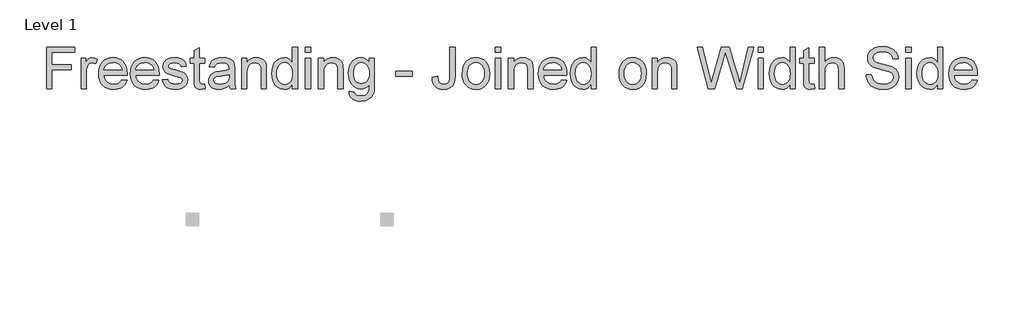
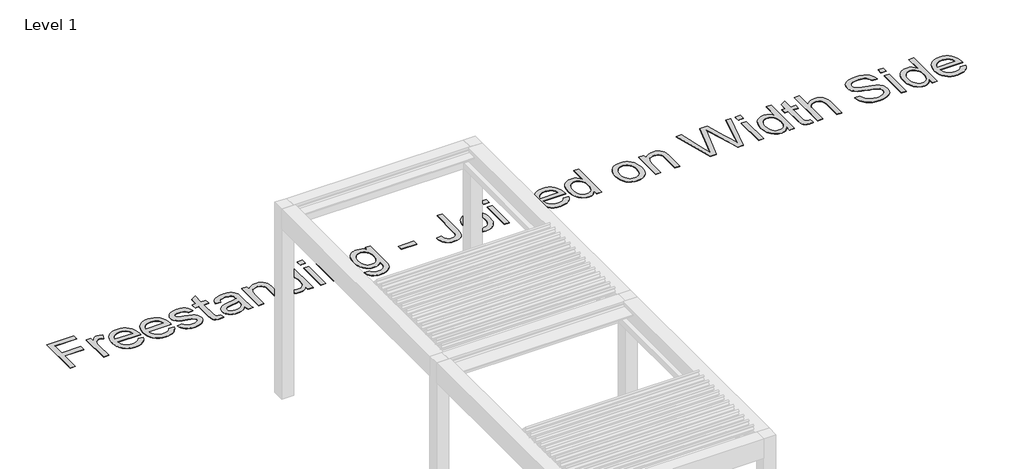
# One storey, part 15 of 69: 1 proxy.
"""IFC4 building model written with IfcOpenShell, lengths in millimetres."""

from ifc_helpers import new_model, si_unit, origin, origin_with_axes, place, context, project, spatial, polyline, outline, extrude, element, save

model = new_model("IFC4")

# Units and contexts
model_context = context("Model", 3, world=origin())
ifc_project = project(units=[si_unit("LENGTHUNIT", "METRE", prefix="MILLI")], contexts=[model_context])

# Site, building, storey
site = spatial("IfcSite", under=ifc_project)
building = spatial("IfcBuilding", under=site)
storey = spatial("IfcBuildingStorey", under=building, Name="Level 1", Elevation=0.0)

# Proxy
placement = place(None, origin())
element("IfcBuildingElementProxy", 1, Name="500mm Arial", ObjectType="500mm Arial", at=placement, inside=storey, context=model_context, shape_type="SweptSolid", body=[
    extrude(outline(polyline([(90253.7790922, -47655.9215237), (90253.7790922, -47153.639973), (90591.2495091, -47153.639973), (90591.2495091, -47216.4251668), (90316.564286, -47216.4251668), (90316.564286, -47365.5400022), (90552.0087629, -47365.5400022), (90552.0087629, -47428.325196), (90316.564286, -47428.325196), (90316.564286, -47655.9215237), (90253.7790922, -47655.9215237)])), origin_with_axes(), (0.0, 0.0, 1.0), 5.0),
    extrude(outline(polyline([(90669.7310014, -47655.9215237), (90669.7310014, -47287.0585099), (90724.668046, -47287.0585099), (90724.668046, -47341.6276725), (90744.9628694, -47309.9898209), (90763.6635375, -47291.3504665), (90782.4255192, -47282.2453871), (90802.9042836, -47279.2103607), (90834.1742532, -47284.0541403), (90865.9347321, -47298.5854791), (90844.9654584, -47354.8714243), (90822.8925387, -47345.214522), (90800.819619, -47341.9955545), (90782.0729657, -47345.0918946), (90765.3190065, -47354.380915), (90751.7840147, -47369.1575085), (90742.6942638, -47388.7165679), (90735.0607124, -47423.7879848), (90732.5161952, -47462.0477123), (90732.5161952, -47655.9215237), (90669.7310014, -47655.9215237)])), origin_with_axes(), (0.0, 0.0, 1.0), 5.0),
    extrude(outline(polyline([(91163.4286389, -47546.0474345), (91224.9875594, -47553.8955837), (91215.549087, -47578.5513416), (91202.8073408, -47600.279372), (91186.7623209, -47619.0796748), (91167.4140272, -47634.95225), (91144.9617292, -47647.5598725), (91119.6046962, -47656.5653172), (91091.3429284, -47661.968584), (91060.1764256, -47663.769673), (91021.2192551, -47660.6618365), (90986.5080561, -47651.3383272), (90956.0428283, -47635.799145), (90929.823572, -47614.0442899), (90908.7393351, -47586.6792344), (90893.6791659, -47554.309451), (90884.6430644, -47516.9349395), (90881.6310306, -47474.5557001), (90884.6737213, -47430.7394216), (90893.8017933, -47392.1194764), (90909.0152466, -47358.6958643), (90930.3140813, -47330.4685853), (90956.4643598, -47308.043112), (90986.2321446, -47292.0249168), (91019.6174356, -47282.4139997), (91056.620233, -47279.2103607), (91092.4312459, -47282.4063355), (91124.8163578, -47291.99426), (91153.7755686, -47307.9741342), (91179.3088784, -47330.345958), (91200.1516926, -47358.5119233), (91215.0394171, -47391.8742217), (91223.9720518, -47430.4328533), (91226.9495967, -47474.1878181), (91226.5817147, -47491.1103899), (90944.4162244, -47491.1103899), (90948.0528912, -47516.1646866), (90955.2840717, -47538.1073148), (90966.1097658, -47556.9382744), (90980.5299736, -47572.6575655), (90997.7476174, -47585.0505902), (91016.9656196, -47593.9027507), (91038.1839801, -47599.214047), (91061.4026989, -47600.9844791), (91094.8186468, -47597.704198), (91122.9616194, -47587.8633546), (91145.8316168, -47570.8488123), (91163.4286389, -47546.0474345)]), holes=[polyline([(90944.4162244, -47428.325196), (91164.1644029, -47428.325196), (91155.6724602, -47395.1545028), (91139.0257999, -47371.4261141), (91121.9039587, -47358.5502443), (91102.4215414, -47349.3531944), (91080.5785479, -47343.8349645), (91056.3749783, -47341.9955545), (91014.0532204, -47347.866338), (90995.6399602, -47355.2048174), (90979.0584457, -47365.4786885), (90965.1440756, -47378.2127705), (90954.7322487, -47392.9318824), (90947.822965, -47409.6360243), (90944.4162244, -47428.325196)])]), origin_with_axes(), (0.0, 0.0, 1.0), 5.0),
    extrude(outline(polyline([(91547.9879512, -47546.0474345), (91609.5468717, -47553.8955837), (91600.1083993, -47578.5513416), (91587.3666531, -47600.279372), (91571.3216332, -47619.0796748), (91551.9733395, -47634.95225), (91529.5210415, -47647.5598725), (91504.1640085, -47656.5653172), (91475.9022407, -47661.968584), (91444.7357379, -47663.769673), (91405.7785674, -47660.6618365), (91371.0673683, -47651.3383272), (91340.6021406, -47635.799145), (91314.3828843, -47614.0442899), (91293.2986474, -47586.6792344), (91278.2384782, -47554.309451), (91269.2023767, -47516.9349395), (91266.1903429, -47474.5557001), (91269.2330336, -47430.7394216), (91278.3611056, -47392.1194764), (91293.5745589, -47358.6958643), (91314.8733936, -47330.4685853), (91341.0236721, -47308.043112), (91370.7914568, -47292.0249168), (91404.1767479, -47282.4139997), (91441.1795453, -47279.2103607), (91476.9905582, -47282.4063355), (91509.3756701, -47291.99426), (91538.3348809, -47307.9741342), (91563.8681907, -47330.345958), (91584.7110049, -47358.5119233), (91599.5987294, -47391.8742217), (91608.5313641, -47430.4328533), (91611.508909, -47474.1878181), (91611.141027, -47491.1103899), (91328.9755367, -47491.1103899), (91332.6122035, -47516.1646866), (91339.843384, -47538.1073148), (91350.6690781, -47556.9382744), (91365.0892859, -47572.6575655), (91382.3069297, -47585.0505902), (91401.5249319, -47593.9027507), (91422.7432924, -47599.214047), (91445.9620112, -47600.9844791), (91479.3779591, -47597.704198), (91507.5209317, -47587.8633546), (91530.3909291, -47570.8488123), (91547.9879512, -47546.0474345)]), holes=[polyline([(91328.9755367, -47428.325196), (91548.7237152, -47428.325196), (91540.2317725, -47395.1545028), (91523.5851122, -47371.4261141), (91506.463271, -47358.5502443), (91486.9808537, -47349.3531944), (91465.1378602, -47343.8349645), (91440.9342906, -47341.9955545), (91398.6125327, -47347.866338), (91380.1992725, -47355.2048174), (91363.6177579, -47365.4786885), (91349.7033879, -47378.2127705), (91339.291561, -47392.9318824), (91332.3822773, -47409.6360243), (91328.9755367, -47428.325196)])]), origin_with_axes(), (0.0, 0.0, 1.0), 5.0),
    extrude(outline(polyline([(91650.7496552, -47546.0474345), (91713.534849, -47538.1992853), (91723.4370061, -47565.0546709), (91742.5975266, -47584.7976713), (91771.1390381, -47596.9377772), (91809.1841678, -47600.9844791), (91846.7694449, -47597.2750023), (91873.1956349, -47586.146572), (91888.8306197, -47570.0210779), (91894.0422813, -47551.3204098), (91888.7999629, -47535.317543), (91873.0730076, -47523.1161235), (91808.4484038, -47505.212533), (91751.150783, -47488.6425148), (91713.902731, -47474.4943864), (91689.9750729, -47459.0586711), (91672.6386339, -47438.6258919), (91662.1080118, -47414.4989644), (91658.5978044, -47387.9808039), (91661.418233, -47363.654607), (91669.8795189, -47341.1984769), (91683.2152413, -47321.5014617), (91700.6589792, -47305.4526097), (91717.9954182, -47295.3511832), (91740.5741757, -47286.8745689), (91766.6784689, -47281.1264127), (91794.5915153, -47279.2103607), (91835.4570736, -47282.2913724), (91870.988343, -47291.5344075), (91899.5605112, -47306.0350895), (91919.5487663, -47324.8890417), (91932.7925181, -47349.4911502), (91941.1311767, -47381.2363007), (91878.3459829, -47389.0844499), (91870.4211915, -47369.3261211), (91854.7402215, -47354.4422287), (91831.1497886, -47345.1072231), (91799.4966086, -47341.9955545), (91763.444173, -47344.9692673), (91739.409216, -47353.8904057), (91725.8895527, -47366.7662755), (91721.3829983, -47381.6041827), (91723.2530651, -47391.261085), (91728.8632655, -47399.8756551), (91738.4588542, -47407.5705202), (91752.2850858, -47413.7325436), (91806.3637391, -47427.0989227), (91898.5181789, -47456.6521097), (91922.8597043, -47470.7849097), (91941.3151177, -47490.1293712), (91952.9493858, -47514.7468081), (91956.8274752, -47544.6985339), (91952.2749355, -47575.6619351), (91938.6173164, -47604.7859264), (91916.3757841, -47629.7865737), (91886.0715048, -47648.3799428), (91849.4672462, -47659.9222404), (91808.3257764, -47663.769673), (91774.5342823, -47661.9149346), (91745.0194164, -47656.3507194), (91719.7811787, -47647.0770274), (91698.8195692, -47634.0938587), (91681.697728, -47617.4625268), (91667.9787953, -47597.2443455), (91657.662771, -47573.4393147), (91650.7496552, -47546.0474345)])), origin_with_axes(), (0.0, 0.0, 1.0), 5.0),
    extrude(outline(polyline([(92160.8793552, -47603.5596531), (92168.7275044, -47657.7609337), (92121.7612363, -47663.769673), (92091.6255696, -47661.1638422), (92069.154111, -47653.3463498), (92053.2738716, -47641.2982144), (92042.911862, -47626.0004548), (92037.2096911, -47599.727549), (92035.3089675, -47554.7539751), (92035.3089675, -47349.8437037), (91988.2200721, -47349.8437037), (91988.2200721, -47287.0585099), (92035.3089675, -47287.0585099), (92035.3089675, -47197.4179304), (92098.0941613, -47160.5071036), (92098.0941613, -47287.0585099), (92160.8793552, -47287.0585099), (92160.8793552, -47349.8437037), (92098.0941613, -47349.8437037), (92098.0941613, -47552.9145651), (92101.4050993, -47585.2881807), (92112.1349908, -47596.7538362), (92133.5334602, -47600.9844791), (92160.8793552, -47603.5596531)])), origin_with_axes(), (0.0, 0.0, 1.0), 5.0),
    extrude(outline(polyline([(92459.1090259, -47608.8326283), (92429.1113149, -47634.5537112), (92398.2245557, -47651.3843125), (92365.7436412, -47660.6733328), (92330.9634643, -47663.769673), (92303.0082647, -47661.9072704), (92278.4942947, -47656.3200626), (92257.4215542, -47647.0080496), (92239.7900431, -47633.9712314), (92225.8680089, -47618.0373424), (92215.9236987, -47600.0341173), (92209.9571126, -47579.9615559), (92207.9682505, -47557.8196583), (92210.9726202, -47531.7920072), (92219.985729, -47508.155589), (92233.8886028, -47487.9220793), (92251.562267, -47472.1031535), (92272.3322713, -47460.1469886), (92295.5241654, -47451.5017617), (92349.8480733, -47442.0594572), (92414.0434815, -47432.1266433), (92458.7411439, -47420.4770468), (92459.1090259, -47406.497531), (92454.7864125, -47378.4771857), (92441.8185721, -47360.1443996), (92428.7434329, -47352.2042799), (92412.8172082, -47346.5327658), (92372.4115024, -47341.9955545), (92335.0101662, -47345.0152526), (92308.8905445, -47354.0743467), (92291.0789246, -47370.8283059), (92278.6015936, -47396.9325991), (92215.8163998, -47389.0844499), (92226.7149039, -47354.748797), (92242.9783537, -47327.770784), (92266.1242626, -47307.1387355), (92297.6701437, -47291.8409758), (92336.2517679, -47282.3680145), (92380.5049063, -47279.2103607), (92422.9492915, -47282.0001325), (92456.5951656, -47290.3694479), (92481.9636949, -47302.9540778), (92499.5760454, -47318.3897932), (92511.2562987, -47337.4736717), (92518.8285365, -47361.0027909), (92521.8942198, -47415.9398355), (92521.8942198, -47494.0534459), (92525.0825304, -47603.1304574), (92529.8036827, -47630.093142), (92537.5905182, -47655.9215237), (92474.8053244, -47655.9215237), (92464.7498832, -47634.0938587), (92459.1090259, -47608.8326283)]), holes=[polyline([(92459.1090259, -47483.2622407), (92416.9252238, -47493.7162207), (92357.8188499, -47502.5147317), (92303.8015103, -47512.6928003), (92289.7453524, -47519.6519013), (92279.3373576, -47529.2474901), (92272.8994227, -47540.7438024), (92270.7534444, -47553.4050744), (92275.4286114, -47572.0750857), (92289.4541125, -47587.3728453), (92312.5233793, -47597.5815707), (92344.3298434, -47600.9844791), (92378.0523596, -47597.2290171), (92407.8508013, -47585.962631), (92432.0083856, -47569.3619559), (92448.80833, -47549.6036271), (92456.2579405, -47529.2474901), (92458.7411439, -47501.0432038), (92459.1090259, -47483.2622407)])]), origin_with_axes(), (0.0, 0.0, 1.0), 5.0),
    extrude(outline(polyline([(92608.2238613, -47655.9215237), (92608.2238613, -47287.0585099), (92671.0090551, -47287.0585099), (92671.0090551, -47338.5619892), (92692.8213918, -47312.5956517), (92719.0176555, -47294.0482678), (92749.5978464, -47282.9198375), (92784.5619643, -47279.2103607), (92815.5100372, -47282.1994019), (92843.8522792, -47291.1665255), (92867.4886974, -47304.9927572), (92884.3192987, -47322.5591224), (92895.7389689, -47343.8196361), (92903.1425941, -47368.7283128), (92906.453532, -47429.428842), (92906.453532, -47655.9215237), (92843.6683382, -47655.9215237), (92843.6683382, -47437.8901279), (92841.8595851, -47405.4245418), (92836.4333256, -47382.3399466), (92826.4238697, -47365.8005853), (92810.865527, -47352.9707007), (92790.9232571, -47344.7393411), (92767.7620199, -47341.9955545), (92748.6973019, -47343.5360604), (92730.9891488, -47348.1575779), (92714.6375605, -47355.8601072), (92699.6425371, -47366.6436482), (92687.1153887, -47381.7344742), (92678.1674256, -47402.3588586), (92672.7986478, -47428.5168013), (92671.0090551, -47460.2083023), (92671.0090551, -47655.9215237), (92608.2238613, -47655.9215237)])), origin_with_axes(), (0.0, 0.0, 1.0), 5.0),
    extrude(outline(polyline([(93220.3795013, -47655.9215237), (93220.3795013, -47596.6925225), (93201.5945269, -47626.0387758), (93178.8394926, -47647.0003853), (93152.1143985, -47659.5773511), (93121.4192446, -47663.769673), (93080.8295978, -47657.69962), (93043.6735162, -47639.4894613), (93012.2196057, -47610.4114552), (92988.7364716, -47571.7378605), (92974.1131623, -47525.0321755), (92969.2387259, -47471.8578988), (92973.7299519, -47419.342744), (92987.20363, -47371.9166235), (92997.3050564, -47350.7864014), (93009.6444317, -47332.2773385), (93024.2217558, -47316.3894348), (93041.0370286, -47303.1226904), (93079.0055162, -47285.1884431), (93121.1739899, -47279.2103607), (93151.8921365, -47283.4869889), (93179.0540905, -47296.3168734), (93202.077372, -47315.9832318), (93220.3795013, -47340.7692812), (93220.3795013, -47153.639973), (93283.1646951, -47153.639973), (93283.1646951, -47655.9215237), (93220.3795013, -47655.9215237)]), holes=[polyline([(93032.0239197, -47471.6126441), (93033.7943518, -47502.0587114), (93039.1056481, -47528.4044272), (93047.9578087, -47550.6497915), (93060.3508334, -47568.7948045), (93075.1504195, -47582.8777872), (93091.2222641, -47592.9370605), (93108.5663674, -47598.9726245), (93127.1827292, -47600.9844791), (93145.8872293, -47599.064595), (93163.1278658, -47593.3049425), (93178.9046384, -47583.7055217), (93193.2175473, -47570.2663325), (93205.1009022, -47552.8800761), (93213.5890128, -47531.4394536), (93218.6818791, -47505.9444649), (93220.3795013, -47476.3951101), (93218.6512223, -47443.9985019), (93213.4663854, -47416.215747), (93204.8249907, -47393.0468456), (93192.727038, -47374.4917974), (93178.0998965, -47360.2746911), (93161.8709356, -47350.1196152), (93144.0401552, -47344.0265697), (93124.6075552, -47341.9955545), (93105.6233114, -47343.9460955), (93088.2792082, -47349.7977185), (93072.5752455, -47359.5504235), (93058.5114234, -47373.2042104), (93046.9231405, -47391.0579835), (93038.6457956, -47413.4106468), (93033.6793887, -47440.2622004), (93032.0239197, -47471.6126441)])]), origin_with_axes(), (0.0, 0.0, 1.0), 5.0),
    extrude(outline(polyline([(93377.3424859, -47655.9215237), (93377.3424859, -47287.0585099), (93440.1276797, -47287.0585099), (93440.1276797, -47655.9215237), (93377.3424859, -47655.9215237)])), origin_with_axes(), (0.0, 0.0, 1.0), 5.0),
    extrude(outline(polyline([(93377.3424859, -47216.4251668), (93377.3424859, -47153.639973), (93440.1276797, -47153.639973), (93440.1276797, -47216.4251668), (93377.3424859, -47216.4251668)])), origin_with_axes(), (0.0, 0.0, 1.0), 5.0),
    extrude(outline(polyline([(93534.3054705, -47655.9215237), (93534.3054705, -47287.0585099), (93597.0906643, -47287.0585099), (93597.0906643, -47338.5619892), (93618.903001, -47312.5956517), (93645.0992647, -47294.0482678), (93675.6794555, -47282.9198375), (93710.6435735, -47279.2103607), (93741.5916463, -47282.1994019), (93769.9338884, -47291.1665255), (93793.5703066, -47304.9927572), (93810.4009079, -47322.5591224), (93821.8205781, -47343.8196361), (93829.2242033, -47368.7283128), (93832.5351412, -47429.428842), (93832.5351412, -47655.9215237), (93769.7499474, -47655.9215237), (93769.7499474, -47437.8901279), (93767.9411943, -47405.4245418), (93762.5149348, -47382.3399466), (93752.5054789, -47365.8005853), (93736.9471362, -47352.9707007), (93717.0048663, -47344.7393411), (93693.8436291, -47341.9955545), (93674.7789111, -47343.5360604), (93657.070758, -47348.1575779), (93640.7191697, -47355.8601072), (93625.7241463, -47366.6436482), (93613.1969979, -47381.7344742), (93604.2490348, -47402.3588586), (93598.8802569, -47428.5168013), (93597.0906643, -47460.2083023), (93597.0906643, -47655.9215237), (93534.3054705, -47655.9215237)])), origin_with_axes(), (0.0, 0.0, 1.0), 5.0),
    extrude(outline(polyline([(93903.1684843, -47687.3141207), (93965.9536782, -47695.1622699), (93972.8821224, -47714.782643), (93986.3098152, -47728.2716494), (94012.7053484, -47738.7562863), (94047.2555991, -47742.2511653), (94084.1051123, -47738.2964338), (94111.5123209, -47726.4322395), (94130.5195573, -47707.4250031), (94142.1691538, -47682.0411454), (94145.5720623, -47655.0324756), (94146.4611105, -47608.8326283), (94125.5684788, -47629.4340201), (94102.2539574, -47644.1492999), (94076.5175461, -47652.9784678), (94048.3592451, -47655.9215237), (94013.9354538, -47652.4956226), (93983.6273423, -47642.2179194), (93957.4349107, -47625.088414), (93935.3581589, -47601.1071064), (93917.841611, -47572.3356687), (93905.329791, -47540.8357729), (93897.8226991, -47506.6074189), (93895.3203351, -47469.6506068), (93899.8115611, -47418.9595336), (93913.2852392, -47372.3458191), (93935.2661884, -47332.8444899), (93949.2686968, -47316.8991047), (93965.2792278, -47303.4905723), (93983.0410304, -47292.8679797), (94002.2973536, -47285.2804136), (94023.0481974, -47280.7278739), (94045.2935618, -47279.2103607), (94074.6551435, -47282.643926), (94101.3035955, -47292.9446218), (94125.2389179, -47310.1124483), (94146.4611105, -47334.1474053), (94146.4611105, -47287.0585099), (94209.2463043, -47287.0585099), (94209.2463043, -47605.5216904), (94204.9543477, -47679.0521042), (94199.5894019, -47706.4018313), (94192.0784779, -47727.4745718), (94169.8982592, -47759.5876043), (94137.6932562, -47784.1897127), (94118.0077374, -47793.3101205), (94096.168576, -47799.8246975), (94046.0293258, -47805.0363591), (94015.269026, -47803.2007812), (93987.6127306, -47797.6940476), (93963.0604395, -47788.5161583), (93941.6121528, -47775.6671132), (93924.2872101, -47759.1315839), (93912.1049511, -47738.8942421), (93905.0653759, -47714.9550876), (93903.1684843, -47687.3141207)]), holes=[polyline([(93958.1055289, -47465.3586502), (93959.7801584, -47496.4025257), (93964.8040469, -47522.9475109), (93973.1771944, -47544.9936059), (93984.8996009, -47562.5408106), (93999.1511961, -47575.9263503), (94015.1119098, -47585.4874501), (94032.7817418, -47591.2241099), (94052.1606924, -47593.1363299), (94071.3480377, -47591.2356062), (94088.9335635, -47585.5334353), (94104.9172697, -47576.0298171), (94119.2991565, -47562.7247516), (94131.1825113, -47545.3499916), (94139.670622, -47523.6372896), (94144.7634883, -47497.5866458), (94146.4611105, -47467.1980602), (94144.713671, -47438.077901), (94139.4713525, -47412.7668533), (94130.7341552, -47391.2649171), (94118.5020788, -47373.5720924), (94103.8097916, -47359.7573571), (94087.6919617, -47349.889689), (94070.1485891, -47343.9690881), (94051.1796737, -47341.9955545), (94032.528823, -47343.9384313), (94015.3265076, -47349.7670617), (93999.5727276, -47359.4814456), (93985.2674829, -47373.0815831), (93973.384128, -47390.5061605), (93964.8960174, -47411.6938642), (93959.8031511, -47436.6446941), (93958.1055289, -47465.3586502)])]), origin_with_axes(), (0.0, 0.0, 1.0), 5.0),
    extrude(outline(polyline([(94468.2352289, -47506.8066884), (94468.2352289, -47444.0214945), (94664.4389597, -47444.0214945), (94664.4389597, -47506.8066884), (94468.2352289, -47506.8066884)])), origin_with_axes(), (0.0, 0.0, 1.0), 5.0),
    extrude(outline(polyline([(94907.7315858, -47514.9000922), (94970.5167797, -47506.8066884), (94977.0466851, -47552.4547126), (94983.4616274, -47568.8637824), (94991.9765627, -47580.996224), (95014.7852464, -47595.9874153), (95044.95157, -47600.9844791), (95068.1434641, -47598.1487221), (95087.9324498, -47589.6414509), (95103.1995526, -47576.2444149), (95112.8257981, -47558.7393633), (95117.9301608, -47533.4014909), (95119.631615, -47496.5059925), (95119.631615, -47153.639973), (95182.4168089, -47153.639973), (95182.4168089, -47495.4023465), (95178.63069, -47551.3050814), (95167.2723334, -47592.9523889), (95147.6826172, -47623.3792956), (95119.2024194, -47645.6208279), (95083.4412238, -47659.2324617), (95042.008514, -47663.769673), (95011.0681054, -47661.4282573), (94983.9751293, -47654.4040105), (94960.7295857, -47642.6969324), (94941.3314747, -47626.3070231), (94926.1256856, -47605.2955962), (94915.4571077, -47579.7239655), (94909.3257411, -47549.5921308), (94907.7315858, -47514.9000922)])), origin_with_axes(), (0.0, 0.0, 1.0), 5.0),
    extrude(outline(polyline([(95268.7464504, -47471.4900168), (95272.1416947, -47423.7190069), (95282.3274274, -47382.5545445), (95299.3036486, -47347.9966296), (95323.0703584, -47320.0452621), (95346.9980165, -47302.1799927), (95373.408878, -47289.419086), (95402.3029431, -47281.762542), (95433.6802116, -47279.2103607), (95468.3186007, -47282.3181971), (95499.6383876, -47291.6417064), (95527.6395724, -47307.1808886), (95552.322155, -47328.9357437), (95572.4675264, -47356.1705076), (95586.8570773, -47388.1494165), (95595.4908079, -47424.8724702), (95598.3687181, -47466.3396689), (95593.2796838, -47529.7686562), (95586.918391, -47555.8039716), (95578.012581, -47578.0531681), (95566.6733849, -47597.2711702), (95553.0119338, -47614.2129025), (95537.0282275, -47628.878365), (95518.7222661, -47641.2675576), (95477.9946636, -47658.1441441), (95433.6802116, -47663.769673), (95398.5359847, -47660.6733328), (95366.9249579, -47651.3843125), (95338.847131, -47635.9026118), (95314.3025041, -47614.2282309), (95294.3717306, -47586.7290518), (95280.1354638, -47553.7729564), (95271.5937038, -47515.3599447), (95268.7464504, -47471.4900168)]), holes=[polyline([(95331.5316443, -47471.3673895), (95333.3480616, -47501.8211209), (95338.7973137, -47528.1898293), (95347.8794004, -47550.4735148), (95360.5943219, -47568.6721772), (95376.0606941, -47582.8088093), (95393.3971331, -47592.9064036), (95412.6036389, -47598.9649602), (95433.6802116, -47600.9844791), (95454.6494853, -47598.9534639), (95473.7793491, -47592.8604184), (95491.0698028, -47582.7053425), (95506.5208466, -47568.4882362), (95519.2357681, -47550.1094649), (95528.3178548, -47527.4693937), (95533.7671069, -47500.5680228), (95535.5835242, -47469.4053522), (95533.7556106, -47439.917311), (95528.2718696, -47414.2383813), (95519.1323013, -47392.3685631), (95506.3369056, -47374.3078564), (95490.8283803, -47360.1712243), (95473.5494228, -47350.07363), (95454.5000332, -47344.0150734), (95433.6802116, -47341.9955545), (95412.6036389, -47344.0074092), (95393.3971331, -47350.0429732), (95376.0606941, -47360.1022465), (95360.5943219, -47374.1852291), (95347.8794004, -47392.3302421), (95338.7973137, -47414.5756065), (95333.3480616, -47440.9213223), (95331.5316443, -47471.3673895)])]), origin_with_axes(), (0.0, 0.0, 1.0), 5.0),
    extrude(outline(polyline([(95669.0020612, -47216.4251668), (95669.0020612, -47153.639973), (95731.787255, -47153.639973), (95731.787255, -47216.4251668), (95669.0020612, -47216.4251668)])), origin_with_axes(), (0.0, 0.0, 1.0), 5.0),
    extrude(outline(polyline([(95669.0020612, -47655.9215237), (95669.0020612, -47287.0585099), (95731.787255, -47287.0585099), (95731.787255, -47655.9215237), (95669.0020612, -47655.9215237)])), origin_with_axes(), (0.0, 0.0, 1.0), 5.0),
    extrude(outline(polyline([(95825.9650458, -47655.9215237), (95825.9650458, -47287.0585099), (95888.7502396, -47287.0585099), (95888.7502396, -47338.5619892), (95910.5625762, -47312.5956517), (95936.75884, -47294.0482678), (95967.3390308, -47282.9198375), (96002.3031488, -47279.2103607), (96033.2512216, -47282.1994019), (96061.5934637, -47291.1665255), (96085.2298819, -47304.9927572), (96102.0604832, -47322.5591224), (96113.4801534, -47343.8196361), (96120.8837786, -47368.7283128), (96124.1947165, -47429.428842), (96124.1947165, -47655.9215237), (96061.4095227, -47655.9215237), (96061.4095227, -47437.8901279), (96059.6007695, -47405.4245418), (96054.1745101, -47382.3399466), (96044.1650542, -47365.8005853), (96028.6067114, -47352.9707007), (96008.6644416, -47344.7393411), (95985.5032043, -47341.9955545), (95966.4384864, -47343.5360604), (95948.7303332, -47348.1575779), (95932.378745, -47355.8601072), (95917.3837216, -47366.6436482), (95904.8565732, -47381.7344742), (95895.9086101, -47402.3588586), (95890.5398322, -47428.5168013), (95888.7502396, -47460.2083023), (95888.7502396, -47655.9215237), (95825.9650458, -47655.9215237)])), origin_with_axes(), (0.0, 0.0, 1.0), 5.0),
    extrude(outline(polyline([(96468.7775187, -47546.0474345), (96530.3364392, -47553.8955837), (96520.8979668, -47578.5513416), (96508.1562206, -47600.279372), (96492.1112006, -47619.0796748), (96472.762907, -47634.95225), (96450.3106089, -47647.5598725), (96424.953576, -47656.5653172), (96396.6918081, -47661.968584), (96365.5253054, -47663.769673), (96326.5681349, -47660.6618365), (96291.8569358, -47651.3383272), (96261.3917081, -47635.799145), (96235.1724517, -47614.0442899), (96214.0882149, -47586.6792344), (96199.0280457, -47554.309451), (96189.9919442, -47516.9349395), (96186.9799104, -47474.5557001), (96190.022601, -47430.7394216), (96199.150673, -47392.1194764), (96214.3641264, -47358.6958643), (96235.6629611, -47330.4685853), (96261.8132396, -47308.043112), (96291.5810243, -47292.0249168), (96324.9663154, -47282.4139997), (96361.9691127, -47279.2103607), (96397.7801257, -47282.4063355), (96430.1652376, -47291.99426), (96459.1244484, -47307.9741342), (96484.6577581, -47330.345958), (96505.5005724, -47358.5119233), (96520.3882969, -47391.8742217), (96529.3209316, -47430.4328533), (96532.2984765, -47474.1878181), (96531.9305945, -47491.1103899), (96249.7651042, -47491.1103899), (96253.401771, -47516.1646866), (96260.6329515, -47538.1073148), (96271.4586456, -47556.9382744), (96285.8788534, -47572.6575655), (96303.0964972, -47585.0505902), (96322.3144993, -47593.9027507), (96343.5328598, -47599.214047), (96366.7515787, -47600.9844791), (96400.1675266, -47597.704198), (96428.3104992, -47587.8633546), (96451.1804966, -47570.8488123), (96468.7775187, -47546.0474345)]), holes=[polyline([(96249.7651042, -47428.325196), (96469.5132827, -47428.325196), (96461.0213399, -47395.1545028), (96444.3746797, -47371.4261141), (96427.2528385, -47358.5502443), (96407.7704211, -47349.3531944), (96385.9274277, -47343.8349645), (96361.7238581, -47341.9955545), (96319.4021002, -47347.866338), (96300.9888399, -47355.2048174), (96284.4073254, -47365.4786885), (96270.4929554, -47378.2127705), (96260.0811285, -47392.9318824), (96253.1718448, -47409.6360243), (96249.7651042, -47428.325196)])]), origin_with_axes(), (0.0, 0.0, 1.0), 5.0),
    extrude(outline(polyline([(96822.679998, -47655.9215237), (96822.679998, -47596.6925225), (96803.8950237, -47626.0387758), (96781.1399894, -47647.0003853), (96754.4148953, -47659.5773511), (96723.7197413, -47663.769673), (96683.1300945, -47657.69962), (96645.974013, -47639.4894613), (96614.5201024, -47610.4114552), (96591.0369684, -47571.7378605), (96576.4136591, -47525.0321755), (96571.5392227, -47471.8578988), (96576.0304487, -47419.342744), (96589.5041268, -47371.9166235), (96599.6055532, -47350.7864014), (96611.9449285, -47332.2773385), (96626.5222525, -47316.3894348), (96643.3375254, -47303.1226904), (96681.306013, -47285.1884431), (96723.4744867, -47279.2103607), (96754.1926333, -47283.4869889), (96781.3545872, -47296.3168734), (96804.3778688, -47315.9832318), (96822.679998, -47340.7692812), (96822.679998, -47153.639973), (96885.4651919, -47153.639973), (96885.4651919, -47655.9215237), (96822.679998, -47655.9215237)]), holes=[polyline([(96634.3244165, -47471.6126441), (96636.0948486, -47502.0587114), (96641.4061449, -47528.4044272), (96650.2583054, -47550.6497915), (96662.6513301, -47568.7948045), (96677.4509162, -47582.8777872), (96693.5227609, -47592.9370605), (96710.8668641, -47598.9726245), (96729.4832259, -47600.9844791), (96748.1877261, -47599.064595), (96765.4283625, -47593.3049425), (96781.2051352, -47583.7055217), (96795.5180441, -47570.2663325), (96807.4013989, -47552.8800761), (96815.8895095, -47531.4394536), (96820.9823759, -47505.9444649), (96822.679998, -47476.3951101), (96820.9517191, -47443.9985019), (96815.7668822, -47416.215747), (96807.1254874, -47393.0468456), (96795.0275347, -47374.4917974), (96780.4003933, -47360.2746911), (96764.1714324, -47350.1196152), (96746.3406519, -47344.0265697), (96726.908052, -47341.9955545), (96707.9238082, -47343.9460955), (96690.5797049, -47349.7977185), (96674.8757423, -47359.5504235), (96660.8119202, -47373.2042104), (96649.2236373, -47391.0579835), (96640.9462924, -47413.4106468), (96635.9798855, -47440.2622004), (96634.3244165, -47471.6126441)])]), origin_with_axes(), (0.0, 0.0, 1.0), 5.0),
    extrude(outline(polyline([(97160.1504149, -47471.4900168), (97163.5456592, -47423.7190069), (97173.7313919, -47382.5545445), (97190.7076132, -47347.9966296), (97214.4743229, -47320.0452621), (97238.401981, -47302.1799927), (97264.8128426, -47289.419086), (97293.7069076, -47281.762542), (97325.0841761, -47279.2103607), (97359.7225652, -47282.3181971), (97391.0423522, -47291.6417064), (97419.0435369, -47307.1808886), (97443.7261196, -47328.9357437), (97463.8714909, -47356.1705076), (97478.2610419, -47388.1494165), (97486.8947724, -47424.8724702), (97489.7726826, -47466.3396689), (97484.6836484, -47529.7686562), (97478.3223555, -47555.8039716), (97469.4165456, -47578.0531681), (97458.0773495, -47597.2711702), (97444.4158983, -47614.2129025), (97428.432192, -47628.878365), (97410.1262307, -47641.2675576), (97369.3986281, -47658.1441441), (97325.0841761, -47663.769673), (97289.9399493, -47660.6733328), (97258.3289224, -47651.3843125), (97230.2510955, -47635.9026118), (97205.7064687, -47614.2282309), (97185.7756952, -47586.7290518), (97171.5394284, -47553.7729564), (97162.9976683, -47515.3599447), (97160.1504149, -47471.4900168)]), holes=[polyline([(97222.9356088, -47471.3673895), (97224.7520261, -47501.8211209), (97230.2012782, -47528.1898293), (97239.283365, -47550.4735148), (97251.9982864, -47568.6721772), (97267.4646586, -47582.8088093), (97284.8010976, -47592.9064036), (97304.0076035, -47598.9649602), (97325.0841761, -47600.9844791), (97346.0534498, -47598.9534639), (97365.1833136, -47592.8604184), (97382.4737674, -47582.7053425), (97397.9248112, -47568.4882362), (97410.6397326, -47550.1094649), (97419.7218194, -47527.4693937), (97425.1710714, -47500.5680228), (97426.9874888, -47469.4053522), (97425.1595751, -47439.917311), (97419.6758341, -47414.2383813), (97410.5362658, -47392.3685631), (97397.7408702, -47374.3078564), (97382.2323448, -47360.1712243), (97364.9533873, -47350.07363), (97345.9039978, -47344.0150734), (97325.0841761, -47341.9955545), (97304.0076035, -47344.0074092), (97284.8010976, -47350.0429732), (97267.4646586, -47360.1022465), (97251.9982864, -47374.1852291), (97239.283365, -47392.3302421), (97230.2012782, -47414.5756065), (97224.7520261, -47440.9213223), (97222.9356088, -47471.3673895)])]), origin_with_axes(), (0.0, 0.0, 1.0), 5.0),
    extrude(outline(polyline([(97560.4060257, -47655.9215237), (97560.4060257, -47287.0585099), (97623.1912195, -47287.0585099), (97623.1912195, -47338.5619892), (97645.0035562, -47312.5956517), (97671.1998199, -47294.0482678), (97701.7800108, -47282.9198375), (97736.7441287, -47279.2103607), (97767.6922016, -47282.1994019), (97796.0344436, -47291.1665255), (97819.6708618, -47304.9927572), (97836.5014631, -47322.5591224), (97847.9211333, -47343.8196361), (97855.3247585, -47368.7283128), (97858.6356965, -47429.428842), (97858.6356965, -47655.9215237), (97795.8505026, -47655.9215237), (97795.8505026, -47437.8901279), (97794.0417495, -47405.4245418), (97788.61549, -47382.3399466), (97778.6060341, -47365.8005853), (97763.0476914, -47352.9707007), (97743.1054216, -47344.7393411), (97719.9441843, -47341.9955545), (97700.8794663, -47343.5360604), (97683.1713132, -47348.1575779), (97666.8197249, -47355.8601072), (97651.8247015, -47366.6436482), (97639.2975531, -47381.7344742), (97630.34959, -47402.3588586), (97624.9808122, -47428.5168013), (97623.1912195, -47460.2083023), (97623.1912195, -47655.9215237), (97560.4060257, -47655.9215237)])), origin_with_axes(), (0.0, 0.0, 1.0), 5.0),
    extrude(outline(polyline([(98238.9030521, -47655.9215237), (98101.9283226, -47153.639973), (98166.6755537, -47153.639973), (98246.1380647, -47483.75275), (98270.6635311, -47585.6560627), (98296.90578, -47495.5249738), (98396.4791734, -47153.639973), (98489.7985728, -47153.639973), (98562.1486986, -47401.4698104), (98593.1427567, -47493.4403092), (98615.9820972, -47585.6560627), (98639.7717995, -47486.6958059), (98719.9700745, -47153.639973), (98784.7173056, -47153.639973), (98647.6199488, -47655.9215237), (98580.5427983, -47655.9215237), (98460.1227586, -47268.4191555), (98443.3228141, -47214.3405022), (98424.438205, -47279.4556153), (98314.6867431, -47655.9215237), (98238.9030521, -47655.9215237)])), origin_with_axes(), (0.0, 0.0, 1.0), 5.0),
    extrude(outline(polyline([(98839.6543503, -47655.9215237), (98839.6543503, -47287.0585099), (98902.4395441, -47287.0585099), (98902.4395441, -47655.9215237), (98839.6543503, -47655.9215237)])), origin_with_axes(), (0.0, 0.0, 1.0), 5.0),
    extrude(outline(polyline([(98839.6543503, -47216.4251668), (98839.6543503, -47153.639973), (98902.4395441, -47153.639973), (98902.4395441, -47216.4251668), (98839.6543503, -47216.4251668)])), origin_with_axes(), (0.0, 0.0, 1.0), 5.0),
    extrude(outline(polyline([(99224.2136626, -47655.9215237), (99224.2136626, -47596.6925225), (99205.4286882, -47626.0387758), (99182.6736539, -47647.0003853), (99155.9485598, -47659.5773511), (99125.2534058, -47663.769673), (99084.663759, -47657.69962), (99047.5076775, -47639.4894613), (99016.0537669, -47610.4114552), (98992.5706329, -47571.7378605), (98977.9473236, -47525.0321755), (98973.0728872, -47471.8578988), (98977.5641132, -47419.342744), (98991.0377913, -47371.9166235), (99001.1392177, -47350.7864014), (99013.478593, -47332.2773385), (99028.055917, -47316.3894348), (99044.8711899, -47303.1226904), (99082.8396775, -47285.1884431), (99125.0081512, -47279.2103607), (99155.7262978, -47283.4869889), (99182.8882518, -47296.3168734), (99205.9115333, -47315.9832318), (99224.2136626, -47340.7692812), (99224.2136626, -47153.639973), (99286.9988564, -47153.639973), (99286.9988564, -47655.9215237), (99224.2136626, -47655.9215237)]), holes=[polyline([(99035.858081, -47471.6126441), (99037.6285131, -47502.0587114), (99042.9398094, -47528.4044272), (99051.7919699, -47550.6497915), (99064.1849946, -47568.7948045), (99078.9845807, -47582.8777872), (99095.0564254, -47592.9370605), (99112.4005286, -47598.9726245), (99131.0168904, -47600.9844791), (99149.7213906, -47599.064595), (99166.9620271, -47593.3049425), (99182.7387997, -47583.7055217), (99197.0517086, -47570.2663325), (99208.9350634, -47552.8800761), (99217.4231741, -47531.4394536), (99222.5160404, -47505.9444649), (99224.2136626, -47476.3951101), (99222.4853836, -47443.9985019), (99217.3005467, -47416.215747), (99208.6591519, -47393.0468456), (99196.5611992, -47374.4917974), (99181.9340578, -47360.2746911), (99165.7050969, -47350.1196152), (99147.8743164, -47344.0265697), (99128.4417165, -47341.9955545), (99109.4574727, -47343.9460955), (99092.1133694, -47349.7977185), (99076.4094068, -47359.5504235), (99062.3455847, -47373.2042104), (99050.7573018, -47391.0579835), (99042.4799569, -47413.4106468), (99037.51355, -47440.2622004), (99035.858081, -47471.6126441)])]), origin_with_axes(), (0.0, 0.0, 1.0), 5.0),
    extrude(outline(polyline([(99514.5951841, -47603.5596531), (99522.4433333, -47657.7609337), (99475.4770653, -47663.769673), (99445.3413985, -47661.1638422), (99422.8699399, -47653.3463498), (99406.9897005, -47641.2982144), (99396.627691, -47626.0004548), (99390.92552, -47599.727549), (99389.0247964, -47554.7539751), (99389.0247964, -47349.8437037), (99341.935901, -47349.8437037), (99341.935901, -47287.0585099), (99389.0247964, -47287.0585099), (99389.0247964, -47197.4179304), (99451.8099902, -47160.5071036), (99451.8099902, -47287.0585099), (99514.5951841, -47287.0585099), (99514.5951841, -47349.8437037), (99451.8099902, -47349.8437037), (99451.8099902, -47552.9145651), (99455.1209282, -47585.2881807), (99465.8508197, -47596.7538362), (99487.2492891, -47600.9844791), (99514.5951841, -47603.5596531)])), origin_with_axes(), (0.0, 0.0, 1.0), 5.0),
    extrude(outline(polyline([(99577.3803779, -47655.9215237), (99577.3803779, -47153.639973), (99640.1655718, -47153.639973), (99640.1655718, -47338.3167346), (99663.2271743, -47312.457696), (99689.124534, -47293.9869541), (99717.8576506, -47282.904509), (99749.4265243, -47279.2103607), (99787.3490267, -47283.2417342), (99819.9372401, -47295.3358548), (99845.5970092, -47314.5423606), (99862.7341788, -47339.9108899), (99872.3910812, -47374.7677089), (99875.6100487, -47422.4390841), (99875.6100487, -47655.9215237), (99812.8248548, -47655.9215237), (99812.8248548, -47428.9383327), (99807.8277911, -47389.6362729), (99801.5814614, -47374.6297532), (99792.8365998, -47362.7195736), (99781.8001399, -47353.6528152), (99768.6790154, -47347.1765593), (99736.1827725, -47341.9955545), (99709.6492836, -47345.4904335), (99684.7406068, -47355.9750703), (99664.1085583, -47372.4377896), (99650.404954, -47393.8669158), (99642.7254173, -47422.3471136), (99640.1655718, -47459.9630476), (99640.1655718, -47655.9215237), (99577.3803779, -47655.9215237)])), origin_with_axes(), (0.0, 0.0, 1.0), 5.0),
    extrude(outline(polyline([(100142.4471225, -47483.2622407), (100205.2323164, -47483.2622407), (100212.4366721, -47518.1037313), (100225.4658261, -47546.1087482), (100245.7913063, -47568.334952), (100274.8846408, -47585.8400036), (100310.446567, -47597.1983602), (100350.1778225, -47600.9844791), (100385.1572688, -47598.1180652), (100415.7834449, -47589.5188236), (100440.6001512, -47575.9071898), (100458.151188, -47558.0035993), (100468.5898397, -47537.4481929), (100472.0693902, -47515.8811109), (100469.4635594, -47494.8658519), (100461.646067, -47476.7016784), (100445.7658275, -47461.2046494), (100418.9717556, -47448.1908238), (100327.5530798, -47424.2171804), (100267.5423293, -47408.3522694), (100229.144646, -47393.2537792), (100197.8900049, -47372.1312213), (100175.7404431, -47346.5327658), (100162.5426765, -47317.0102357), (100158.143421, -47284.1154539), (100163.5850088, -47247.3425828), (100179.9097724, -47213.0529152), (100192.0460461, -47197.5252293), (100206.6885159, -47183.9902376), (100243.4920439, -47162.8983365), (100287.6685401, -47150.0684519), (100336.5661886, -47145.7918238), (100389.5411959, -47150.2677214), (100435.8943273, -47163.6954142), (100473.9701138, -47185.7989907), (100489.2832019, -47200.0007686), (100502.1130865, -47216.3025395), (100519.9247064, -47253.3053368), (100527.0064348, -47294.9066591), (100464.221241, -47294.9066591), (100460.0212548, -47274.8724188), (100452.6942718, -47257.4440093), (100442.2402917, -47242.6214306), (100428.6593148, -47230.4046826), (100411.6984219, -47220.8550792), (100391.1046944, -47214.0339339), (100339.0187353, -47208.5770176), (100285.7065028, -47213.9726202), (100265.3273731, -47220.7171234), (100249.1329011, -47230.159428), (100236.7935259, -47241.5101204), (100227.9796864, -47253.9797872), (100222.6913827, -47267.5684284), (100220.9286148, -47282.276044), (100225.9256786, -47306.4029715), (100240.9168699, -47325.8087467), (100254.6817879, -47334.4386452), (100276.3561688, -47343.1605142), (100343.4333192, -47360.8801636), (100412.656448, -47377.7107649), (100454.5336818, -47392.3953879), (100490.3255342, -47415.1734147), (100515.2955246, -47443.2857305), (100529.9648192, -47476.4257669), (100534.854584, -47514.2869556), (100529.2290552, -47552.9912072), (100512.3524687, -47589.3961963), (100484.9146032, -47620.7274795), (100447.6052375, -47644.2106135), (100402.7389625, -47658.8799081), (100352.6303691, -47663.769673), (100291.1174338, -47658.4966977), (100264.4421571, -47651.9054786), (100240.4876742, -47642.6777719), (100219.1083654, -47630.7982491), (100200.1586105, -47616.2515819), (100183.6384097, -47599.0377702), (100169.5477628, -47579.1568141), (100158.1970704, -47557.2525069), (100149.8967329, -47533.9686423), (100144.6467503, -47509.3052202), (100142.4471225, -47483.2622407)])), origin_with_axes(), (0.0, 0.0, 1.0), 5.0),
    extrude(outline(polyline([(100621.1842256, -47655.9215237), (100621.1842256, -47287.0585099), (100683.9694194, -47287.0585099), (100683.9694194, -47655.9215237), (100621.1842256, -47655.9215237)])), origin_with_axes(), (0.0, 0.0, 1.0), 5.0),
    extrude(outline(polyline([(100621.1842256, -47216.4251668), (100621.1842256, -47153.639973), (100683.9694194, -47153.639973), (100683.9694194, -47216.4251668), (100621.1842256, -47216.4251668)])), origin_with_axes(), (0.0, 0.0, 1.0), 5.0),
    extrude(outline(polyline([(101005.7435379, -47655.9215237), (101005.7435379, -47596.6925225), (100986.9585635, -47626.0387758), (100964.2035292, -47647.0003853), (100937.4784351, -47659.5773511), (100906.7832812, -47663.769673), (100866.1936344, -47657.69962), (100829.0375528, -47639.4894613), (100797.5836423, -47610.4114552), (100774.1005082, -47571.7378605), (100759.4771989, -47525.0321755), (100754.6027625, -47471.8578988), (100759.0939885, -47419.342744), (100772.5676666, -47371.9166235), (100782.669093, -47350.7864014), (100795.0084683, -47332.2773385), (100809.5857923, -47316.3894348), (100826.4010652, -47303.1226904), (100864.3695528, -47285.1884431), (100906.5380265, -47279.2103607), (100937.2561731, -47283.4869889), (100964.4181271, -47296.3168734), (100987.4414086, -47315.9832318), (101005.7435379, -47340.7692812), (101005.7435379, -47153.639973), (101068.5287317, -47153.639973), (101068.5287317, -47655.9215237), (101005.7435379, -47655.9215237)]), holes=[polyline([(100817.3879563, -47471.6126441), (100819.1583884, -47502.0587114), (100824.4696847, -47528.4044272), (100833.3218452, -47550.6497915), (100845.71487, -47568.7948045), (100860.5144561, -47582.8777872), (100876.5863007, -47592.9370605), (100893.930404, -47598.9726245), (100912.5467657, -47600.9844791), (100931.2512659, -47599.064595), (100948.4919024, -47593.3049425), (100964.268675, -47583.7055217), (100978.5815839, -47570.2663325), (100990.4649387, -47552.8800761), (100998.9530494, -47531.4394536), (101004.0459157, -47505.9444649), (101005.7435379, -47476.3951101), (101004.0152589, -47443.9985019), (100998.830422, -47416.215747), (100990.1890273, -47393.0468456), (100978.0910746, -47374.4917974), (100963.4639331, -47360.2746911), (100947.2349722, -47350.1196152), (100929.4041918, -47344.0265697), (100909.9715918, -47341.9955545), (100890.987348, -47343.9460955), (100873.6432448, -47349.7977185), (100857.9392821, -47359.5504235), (100843.87546, -47373.2042104), (100832.2871771, -47391.0579835), (100824.0098322, -47413.4106468), (100819.0434253, -47440.2622004), (100817.3879563, -47471.6126441)])]), origin_with_axes(), (0.0, 0.0, 1.0), 5.0),
    extrude(outline(polyline([(101420.9596831, -47546.0474345), (101482.5186036, -47553.8955837), (101473.0801312, -47578.5513416), (101460.338385, -47600.279372), (101444.293365, -47619.0796748), (101424.9450714, -47634.95225), (101402.4927733, -47647.5598725), (101377.1357404, -47656.5653172), (101348.8739725, -47661.968584), (101317.7074698, -47663.769673), (101278.7502993, -47660.6618365), (101244.0391002, -47651.3383272), (101213.5738725, -47635.799145), (101187.3546161, -47614.0442899), (101166.2703793, -47586.6792344), (101151.2102101, -47554.309451), (101142.1741086, -47516.9349395), (101139.1620748, -47474.5557001), (101142.2047654, -47430.7394216), (101151.3328375, -47392.1194764), (101166.5462908, -47358.6958643), (101187.8451255, -47330.4685853), (101213.995404, -47308.043112), (101243.7631887, -47292.0249168), (101277.1484798, -47282.4139997), (101314.1512772, -47279.2103607), (101349.9622901, -47282.4063355), (101382.347402, -47291.99426), (101411.3066128, -47307.9741342), (101436.8399225, -47330.345958), (101457.6827368, -47358.5119233), (101472.5704613, -47391.8742217), (101481.503096, -47430.4328533), (101484.4806409, -47474.1878181), (101484.1127589, -47491.1103899), (101201.9472686, -47491.1103899), (101205.5839354, -47516.1646866), (101212.8151159, -47538.1073148), (101223.64081, -47556.9382744), (101238.0610178, -47572.6575655), (101255.2786616, -47585.0505902), (101274.4966638, -47593.9027507), (101295.7150242, -47599.214047), (101318.9337431, -47600.9844791), (101352.349691, -47597.704198), (101380.4926636, -47587.8633546), (101403.362661, -47570.8488123), (101420.9596831, -47546.0474345)]), holes=[polyline([(101201.9472686, -47428.325196), (101421.6954471, -47428.325196), (101413.2035044, -47395.1545028), (101396.5568441, -47371.4261141), (101379.4350029, -47358.5502443), (101359.9525856, -47349.3531944), (101338.1095921, -47343.8349645), (101313.9060225, -47341.9955545), (101271.5842646, -47347.866338), (101253.1710043, -47355.2048174), (101236.5894898, -47365.4786885), (101222.6751198, -47378.2127705), (101212.2632929, -47392.9318824), (101205.3540092, -47409.6360243), (101201.9472686, -47428.325196)])]), origin_with_axes(), (0.0, 0.0, 1.0), 5.0),
])

save(model, "model.ifc")
